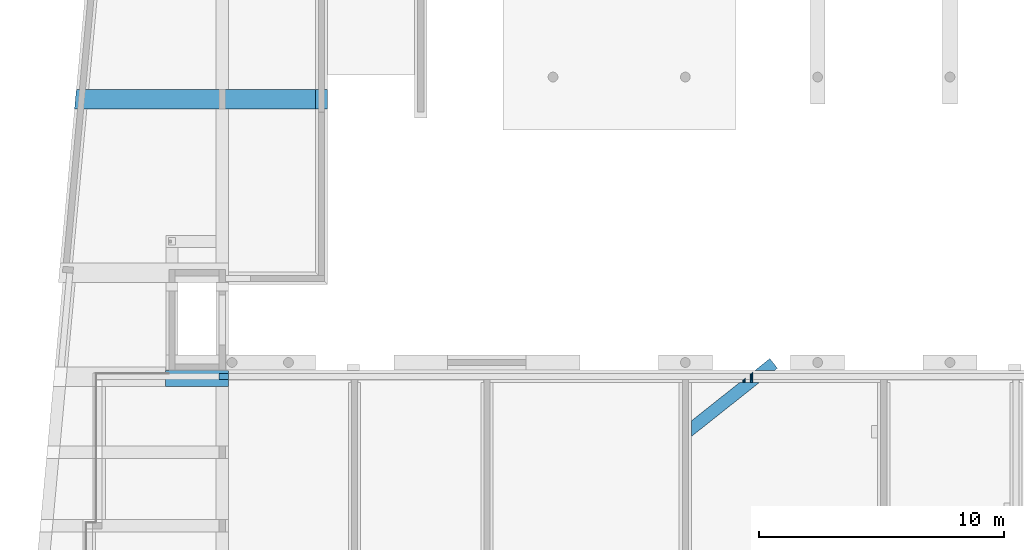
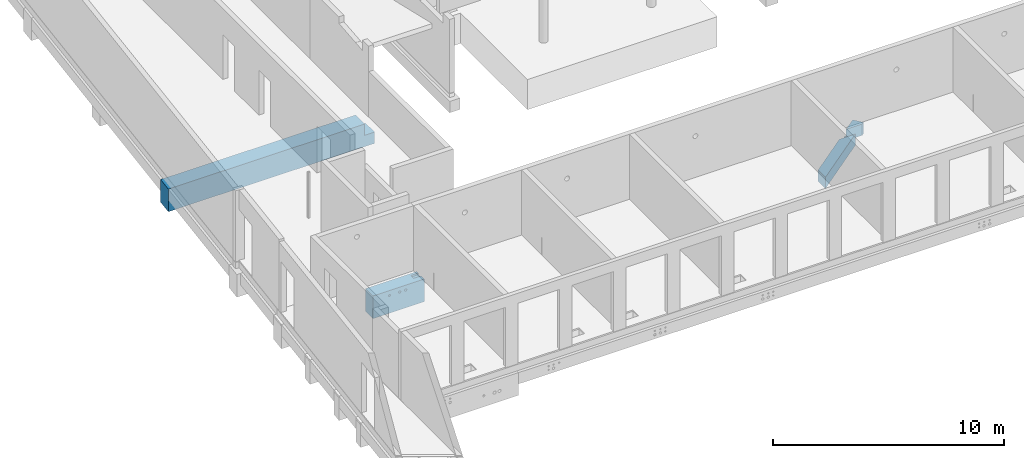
# One storey, part 54 of 60: 3 footings.
"""IFC2X3 building model written with IfcOpenShell, lengths in millimetres."""

from ifc_helpers import new_model, entity, si_unit, converted_unit, derived_unit, direction, frame, origin, place, context, subcontext, project, spatial, polyline, outline, extrude, faceted_brep, material, element, save


model = new_model("IFC2X3")

# Units and contexts
model_context = context("Model", 3, precision=0.01, world=origin(), true_north=direction((6.12303176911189e-17, 1.0)))
body_context = subcontext(model_context, "Body", "Model", "MODEL_VIEW")
ifc_project = project(units=[si_unit("LENGTHUNIT", "METRE", prefix="MILLI"), si_unit("AREAUNIT", "SQUARE_METRE"), si_unit("VOLUMEUNIT", "CUBIC_METRE"), converted_unit("PLANEANGLEUNIT", "DEGREE", entity("IfcRatioMeasure", 0.0174532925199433), si_unit("PLANEANGLEUNIT", "RADIAN"), dimensions=[0, 0, 0, 0, 0, 0, 0]), si_unit("MASSUNIT", "GRAM", prefix="KILO"), derived_unit("MASSDENSITYUNIT", [(si_unit("MASSUNIT", "GRAM", prefix="KILO"), 1), (si_unit("LENGTHUNIT", "METRE"), -3)]), si_unit("TIMEUNIT", "SECOND"), si_unit("FREQUENCYUNIT", "HERTZ"), si_unit("THERMODYNAMICTEMPERATUREUNIT", "DEGREE_CELSIUS"), derived_unit("THERMALTRANSMITTANCEUNIT", [(si_unit("MASSUNIT", "GRAM", prefix="KILO"), 1), (si_unit("THERMODYNAMICTEMPERATUREUNIT", "KELVIN"), -1), (si_unit("TIMEUNIT", "SECOND"), -3)]), derived_unit("VOLUMETRICFLOWRATEUNIT", [(si_unit("LENGTHUNIT", "METRE"), 3), (si_unit("TIMEUNIT", "SECOND"), -1)]), si_unit("ELECTRICCURRENTUNIT", "AMPERE"), si_unit("ELECTRICVOLTAGEUNIT", "VOLT"), si_unit("POWERUNIT", "WATT"), si_unit("FORCEUNIT", "NEWTON", prefix="KILO"), si_unit("ILLUMINANCEUNIT", "LUX"), si_unit("LUMINOUSFLUXUNIT", "LUMEN"), si_unit("LUMINOUSINTENSITYUNIT", "CANDELA"), derived_unit("USERDEFINED", [(si_unit("MASSUNIT", "GRAM", prefix="KILO"), -1), (si_unit("LENGTHUNIT", "METRE"), -2), (si_unit("TIMEUNIT", "SECOND"), 3), (si_unit("LUMINOUSFLUXUNIT", "LUMEN"), 1)]), derived_unit("LINEARVELOCITYUNIT", [(si_unit("LENGTHUNIT", "METRE"), 1), (si_unit("TIMEUNIT", "SECOND"), -1)]), si_unit("PRESSUREUNIT", "PASCAL"), derived_unit("USERDEFINED", [(si_unit("LENGTHUNIT", "METRE"), -2), (si_unit("MASSUNIT", "GRAM", prefix="KILO"), 1), (si_unit("TIMEUNIT", "SECOND"), -2)])], contexts=[model_context])

# Site, building, storey
site_placement = place(None, origin())
site = spatial("IfcSite", under=ifc_project, at=site_placement, Name="Default", CompositionType="ELEMENT")
building_placement = place(site_placement, origin())
building = spatial("IfcBuilding", under=site, at=building_placement, Name="niet gebruiken", CompositionType="ELEMENT")
storey_placement = place(building_placement, origin())
storey = spatial("IfcBuildingStorey", under=building, at=storey_placement, Name="00 begane grond", CompositionType="ELEMENT", Elevation=0.0)

# Footings
ifc_material = material(Name="NLRS_f2_beton ihwg")
footing_1_placement = place(storey_placement, frame((2071.61701217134, 19542.25, -1602.0)))
element("IfcFooting", 1, at=footing_1_placement, inside=storey, material=ifc_material, Name="NLRS_16.12_SF_WPB_funderingsbalk ihwg recht_gen:800x1200", ObjectType="NLRS_16.12_SF_WPB_funderingsbalk ihwg recht_gen:800x1200", PredefinedType="FOOTING_BEAM", context=body_context, shape_type="Brep", body=[
    faceted_brep([(10328.3829878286, 0.0, 0.0), (10328.3829878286, 800.0, 0.0), (10328.3829878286, 800.0, 600.0), (10328.3829878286, 0.0, 600.0), (74.4283302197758, 800.0, 0.0), (74.4283302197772, 800.0, 600.0), (74.4283302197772, 800.0, 1200.0), (576.58756493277, 800.0, 1200.0), (5778.38298782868, 800.0, 1200.0), (6278.38298782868, 800.0, 1200.0), (9828.38298782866, 800.0, 1200.0), (9828.38298782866, 800.0, 600.0), (0.0, 0.0, 0.0), (9828.38298782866, 0.0, 600.0), (9828.38298782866, 0.0, 1200.0), (6278.38298782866, 0.0, 1200.0), (5778.38298782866, 0.0, 1200.0), (502.159234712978, 0.0, 1200.0), (0.0, 0.0, 1200.0), (0.0, 0.0, 600.0)], [[[0, 1, 2, 3]], [[1, 4, 5, 6, 7, 8, 9, 10, 11, 2]], [[1, 0, 12, 4]], [[12, 0, 3, 13, 14, 15, 16, 17, 18, 19]], [[6, 18, 17, 16, 15, 14, 10, 9, 8, 7]], [[6, 5, 4, 12, 19, 18]], [[11, 13, 3, 2]], [[13, 11, 10, 14]]]),
])
footing_2_placement = place(storey_placement, frame((5780.0, 8221.0, -1692.0)))
element("IfcFooting", 2, at=footing_2_placement, inside=storey, material=ifc_material, Name="NLRS_16.12_SF_WPB_funderingsbalk ihwg recht_gen:650x1200", ObjectType="NLRS_16.12_SF_WPB_funderingsbalk ihwg recht_gen:650x1200", PredefinedType="FOOTING_BEAM", context=body_context, shape_type="Brep", body=[
    faceted_brep([(0.0, 650.0, 1200.0), (0.0, 650.0, 0.0), (0.0, 0.0, 0.0), (0.0, 0.0, 1200.0), (2570.0, 650.0, 0.0), (2570.0, 650.0, 1200.0), (2570.0, 525.0, 1200.0), (2570.0, 525.0, 1110.0), (2570.0, 275.0, 1110.0), (2570.0, 275.0, 1200.0), (2570.0, 0.0, 1200.0), (2570.0, 0.0, 0.0), (833.702473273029, 650.0, 997.0), (1333.70247327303, 650.0, 1004.5), (819.467425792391, 650.0, 995.125920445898), (1317.52628295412, 650.0, 1002.37036414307), (847.937520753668, 650.0, 995.125920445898), (806.202473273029, 650.0, 989.631397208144), (794.811600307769, 650.0, 980.89087296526), (786.071076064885, 650.0, 969.5), (780.57655282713, 650.0, 956.235047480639), (778.702473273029, 650.0, 942.0), (780.57655282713, 650.0, 927.764952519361), (786.071076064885, 650.0, 914.499999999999), (794.811600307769, 650.0, 903.109127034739), (806.202473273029, 650.0, 894.368602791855), (819.467425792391, 650.0, 888.874079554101), (833.702473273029, 650.0, 887.0), (847.937520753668, 650.0, 888.874079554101), (1317.52628295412, 650.0, 881.629635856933), (1302.45247327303, 650.0, 887.873412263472), (861.202473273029, 650.0, 894.368602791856), (1289.50829944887, 650.0, 897.80582617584), (872.593346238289, 650.0, 903.10912703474), (1279.5758855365, 650.0, 910.749999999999), (881.333870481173, 650.0, 914.5), (1273.33210912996, 650.0, 925.823809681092), (886.828393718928, 650.0, 927.764952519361), (1271.20247327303, 650.0, 942.0), (888.70247327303, 650.0, 942.0), (886.828393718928, 650.0, 956.235047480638), (1273.33210912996, 650.0, 958.176190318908), (881.333870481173, 650.0, 969.5), (1279.5758855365, 650.0, 973.25), (872.593346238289, 650.0, 980.89087296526), (1289.50829944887, 650.0, 986.194173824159), (861.202473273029, 650.0, 989.631397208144), (1302.45247327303, 650.0, 996.126587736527), (1333.70247327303, 650.0, 879.5), (1633.70247327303, 650.0, 879.5), (1349.87866359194, 650.0, 881.629635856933), (1617.52628295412, 650.0, 881.629635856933), (1602.45247327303, 650.0, 887.873412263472), (1364.95247327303, 650.0, 887.873412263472), (1377.89664709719, 650.0, 897.805826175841), (1589.50829944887, 650.0, 897.80582617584), (1387.82906100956, 650.0, 910.75), (1579.5758855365, 650.0, 910.749999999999), (1394.0728374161, 650.0, 925.823809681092), (1573.33210912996, 650.0, 925.823809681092), (1396.20247327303, 650.0, 942.0), (1571.20247327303, 650.0, 942.0), (1394.0728374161, 650.0, 958.176190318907), (1573.33210912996, 650.0, 958.176190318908), (1387.82906100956, 650.0, 973.25), (1579.5758855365, 650.0, 973.25), (1377.89664709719, 650.0, 986.194173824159), (1589.50829944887, 650.0, 986.194173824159), (1364.95247327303, 650.0, 996.126587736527), (1602.45247327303, 650.0, 996.126587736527), (1349.87866359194, 650.0, 1002.37036414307), (1617.52628295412, 650.0, 1002.37036414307), (1633.70247327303, 650.0, 1004.5), (1649.87866359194, 650.0, 881.629635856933), (1664.95247327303, 650.0, 887.873412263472), (1677.89664709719, 650.0, 897.805826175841), (1687.82906100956, 650.0, 910.75), (1694.0728374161, 650.0, 925.823809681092), (1696.20247327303, 650.0, 942.0), (1694.0728374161, 650.0, 958.176190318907), (1687.82906100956, 650.0, 973.25), (1677.89664709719, 650.0, 986.194173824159), (1664.95247327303, 650.0, 996.126587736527), (1649.87866359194, 650.0, 1002.37036414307), (847.937520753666, 0.0, 888.874079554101), (833.702473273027, 0.0, 887.0), (1317.52628295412, 0.0, 881.629635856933), (1302.45247327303, 0.0, 887.873412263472), (861.202473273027, 0.0, 894.368602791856), (819.467425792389, 0.0, 888.874079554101), (806.202473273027, 0.0, 894.368602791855), (794.811600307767, 0.0, 903.109127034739), (786.071076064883, 0.0, 914.499999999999), (780.576552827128, 0.0, 927.764952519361), (778.702473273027, 0.0, 942.0), (780.576552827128, 0.0, 956.235047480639), (786.071076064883, 0.0, 969.5), (794.811600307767, 0.0, 980.89087296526), (806.202473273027, 0.0, 989.631397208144), (819.467425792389, 0.0, 995.125920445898), (833.702473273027, 0.0, 997.0), (1333.70247327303, 0.0, 1004.5), (1317.52628295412, 0.0, 1002.37036414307), (847.937520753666, 0.0, 995.125920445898), (1302.45247327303, 0.0, 996.126587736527), (861.202473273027, 0.0, 989.631397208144), (1289.50829944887, 0.0, 986.194173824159), (872.593346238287, 0.0, 980.89087296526), (1279.5758855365, 0.0, 973.25), (881.333870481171, 0.0, 969.5), (1273.33210912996, 0.0, 958.176190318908), (886.828393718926, 0.0, 956.235047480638), (1271.20247327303, 0.0, 942.0), (888.702473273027, 0.0, 942.0), (886.828393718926, 0.0, 927.764952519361), (1273.33210912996, 0.0, 925.823809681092), (881.333870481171, 0.0, 914.5), (1279.5758855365, 0.0, 910.749999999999), (872.593346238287, 0.0, 903.10912703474), (1289.50829944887, 0.0, 897.80582617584), (1633.70247327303, 0.0, 1004.5), (1617.52628295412, 0.0, 1002.37036414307), (1349.87866359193, 0.0, 1002.37036414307), (1602.45247327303, 0.0, 996.126587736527), (1364.95247327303, 0.0, 996.126587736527), (1589.50829944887, 0.0, 986.194173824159), (1377.89664709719, 0.0, 986.194173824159), (1579.5758855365, 0.0, 973.25), (1387.82906100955, 0.0, 973.25), (1573.33210912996, 0.0, 958.176190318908), (1394.07283741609, 0.0, 958.176190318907), (1571.20247327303, 0.0, 942.0), (1396.20247327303, 0.0, 942.0), (1573.33210912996, 0.0, 925.823809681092), (1394.07283741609, 0.0, 925.823809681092), (1579.5758855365, 0.0, 910.749999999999), (1387.82906100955, 0.0, 910.75), (1589.50829944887, 0.0, 897.80582617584), (1377.89664709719, 0.0, 897.805826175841), (1602.45247327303, 0.0, 887.873412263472), (1364.95247327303, 0.0, 887.873412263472), (1349.87866359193, 0.0, 881.629635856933), (1617.52628295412, 0.0, 881.629635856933), (1633.70247327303, 0.0, 879.5), (1333.70247327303, 0.0, 879.5), (1649.87866359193, 0.0, 881.629635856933), (1649.87866359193, 0.0, 1002.37036414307), (1664.95247327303, 0.0, 996.126587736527), (1677.89664709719, 0.0, 986.194173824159), (1687.82906100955, 0.0, 973.25), (1694.07283741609, 0.0, 958.176190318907), (1696.20247327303, 0.0, 942.0), (1694.07283741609, 0.0, 925.823809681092), (1687.82906100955, 0.0, 910.75), (1677.89664709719, 0.0, 897.805826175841), (1664.95247327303, 0.0, 887.873412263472), (2195.0, 275.0, 1200.0), (2190.0, 275.0, 1200.0), (2190.0, 525.0, 1200.0), (2445.0, 275.0, 1200.0), (2190.0, 525.0, 1110.0), (2190.0, 275.0, 1110.0), (884.515847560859, 325.0, 920.95241121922), (779.706726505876, 289.552248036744, 931.537718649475), (888.702473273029, 258.951733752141, 942.0), (887.698220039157, 360.447751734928, 931.537718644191), (877.336906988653, 325.0, 908.518121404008), (854.750062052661, 325.0, 891.186625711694), (826.523532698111, 325.0, 887.470532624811), (812.654884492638, 325.0, 891.186625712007), (840.88141384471, 325.0, 887.470532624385), (867.184351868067, 325.0, 898.365566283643), (800.22059467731, 325.0, 898.365566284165), (888.702473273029, 391.048266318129, 942.0), (778.702473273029, 391.048266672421, 942.0), (790.068039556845, 325.0, 908.518121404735), (782.889098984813, 325.0, 920.952411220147), (778.702473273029, 258.951740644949, 942.0), (826.523532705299, 325.0, 996.529467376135), (812.654884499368, 325.0, 992.81337429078), (887.698220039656, 289.552248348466, 952.462281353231), (779.70672655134, 360.447760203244, 952.462281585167), (790.068039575, 324.999999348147, 975.481878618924), (840.881413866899, 325.0, 996.529467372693), (854.750062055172, 325.0, 992.813374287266), (800.220594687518, 325.0, 985.634433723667), (782.889099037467, 325.000001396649, 963.047588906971), (877.336906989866, 325.0, 975.481878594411), (867.184351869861, 325.0, 985.634433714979), (884.515847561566, 325.0, 963.047588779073), (1391.44494405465, 325.0, 918.082285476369), (1272.37727428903, 303.89543152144, 929.93890678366), (1396.20247327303, 276.043475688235, 942.0), (1396.20247327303, 373.956524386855, 942.0), (1395.02767225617, 346.104568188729, 929.938906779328), (1383.28705704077, 325.0, 903.952410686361), (1357.62018779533, 325.0, 884.25752921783), (1325.54458625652, 325.0, 880.0346961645), (1309.78475874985, 325.0, 884.257529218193), (1341.86036028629, 325.0, 880.034696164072), (1641.86036028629, 325.0, 880.034696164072), (1625.54458625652, 325.0, 880.0346961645), (1371.75006258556, 325.0, 892.415416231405), (1295.65488395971, 325.0, 892.41541623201), (1271.20247327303, 373.956524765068, 942.0), (1271.20247327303, 276.04348351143, 942.0), (1284.11788950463, 325.0, 903.952410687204), (1275.96000249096, 325.0, 918.082285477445), (1325.54458626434, 325.0, 1003.96530383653), (1309.78475875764, 325.0, 999.742470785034), (1395.02767225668, 303.895431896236, 954.06109321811), (1272.37727434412, 346.104576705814, 954.06109349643), (1284.11788952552, 324.999999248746, 980.047589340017), (1341.86036030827, 325.0, 1003.96530383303), (1357.62018779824, 325.0, 999.742470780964), (1625.54458626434, 325.0, 1003.96530383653), (1641.86036030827, 325.0, 1003.96530383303), (1295.6548839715, 325.0, 991.584583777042), (1275.96000255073, 325.000001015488, 965.917714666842), (1383.28705704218, 325.0, 980.047589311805), (1371.75006258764, 325.0, 991.584583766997), (1391.44494405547, 325.0, 965.91771452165), (1691.44494405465, 325.0, 918.082285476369), (1572.37727428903, 303.895431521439, 929.93890678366), (1696.20247327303, 276.043475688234, 942.0), (1696.20247327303, 373.956524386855, 942.0), (1695.02767225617, 346.104568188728, 929.938906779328), (1683.28705704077, 325.0, 903.952410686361), (1657.62018779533, 325.0, 884.25752921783), (1609.78475874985, 325.0, 884.257529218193), (1671.75006258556, 325.0, 892.415416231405), (1595.65488395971, 325.0, 892.41541623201), (1571.20247327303, 373.956524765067, 942.0), (1571.20247327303, 276.04348351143, 942.0), (1584.11788950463, 325.0, 903.952410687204), (1575.96000249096, 325.0, 918.082285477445), (1609.78475875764, 325.0, 999.742470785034), (1695.02767225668, 303.895431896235, 954.06109321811), (1572.37727434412, 346.104576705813, 954.06109349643), (1584.11788952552, 324.999999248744, 980.047589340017), (1657.62018779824, 325.0, 999.742470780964), (1595.6548839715, 325.0, 991.584583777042), (1575.96000255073, 325.000001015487, 965.917714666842), (1683.28705704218, 325.0, 980.047589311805), (1671.75006258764, 325.0, 991.584583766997), (1691.44494405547, 325.0, 965.91771452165)], [[[0, 1, 2, 3]], [[4, 5, 6, 7, 8, 9, 10, 11]], [[12, 0, 13]], [[14, 0, 12]], [[15, 12, 13]], [[16, 12, 15]], [[0, 14, 17]], [[17, 18, 0]], [[19, 0, 18]], [[0, 19, 20]], [[0, 20, 21]], [[21, 22, 0]], [[23, 0, 22]], [[23, 1, 0]], [[24, 1, 23]], [[1, 24, 25]], [[1, 25, 26]], [[26, 27, 1]], [[1, 27, 28]], [[29, 1, 28]], [[29, 28, 30]], [[28, 31, 30]], [[30, 31, 32]], [[31, 33, 32]], [[34, 32, 33]], [[33, 35, 34]], [[34, 35, 36]], [[37, 36, 35]], [[36, 37, 38]], [[37, 39, 38]], [[39, 40, 38]], [[40, 41, 38]], [[42, 41, 40]], [[41, 42, 43]], [[44, 43, 42]], [[45, 43, 44]], [[46, 45, 44]], [[47, 45, 46]], [[16, 47, 46]], [[16, 15, 47]], [[29, 48, 1]], [[48, 4, 1]], [[49, 4, 48]], [[49, 48, 50]], [[51, 49, 50]], [[51, 50, 52]], [[50, 53, 52]], [[54, 52, 53]], [[52, 54, 55]], [[56, 55, 54]], [[55, 56, 57]], [[56, 58, 57]], [[57, 58, 59]], [[58, 60, 59]], [[60, 61, 59]], [[60, 62, 61]], [[62, 63, 61]], [[63, 62, 64]], [[65, 63, 64]], [[64, 66, 65]], [[67, 65, 66]], [[66, 68, 67]], [[67, 68, 69]], [[70, 69, 68]], [[70, 13, 71]], [[69, 70, 71]], [[72, 71, 13]], [[73, 4, 49]], [[4, 73, 74]], [[75, 4, 74]], [[4, 75, 76]], [[5, 4, 76]], [[77, 5, 76]], [[77, 78, 5]], [[5, 78, 79]], [[5, 79, 80]], [[5, 80, 81]], [[81, 82, 5]], [[5, 82, 83]], [[83, 72, 5]], [[72, 13, 5]], [[0, 5, 13]], [[2, 1, 4, 11]], [[84, 85, 2]], [[86, 84, 2]], [[86, 87, 84]], [[88, 84, 87]], [[89, 2, 85]], [[2, 89, 90]], [[90, 91, 2]], [[92, 2, 91]], [[3, 2, 92]], [[92, 93, 3]], [[3, 93, 94]], [[3, 94, 95]], [[96, 3, 95]], [[3, 96, 97]], [[3, 97, 98]], [[98, 99, 3]], [[100, 3, 99]], [[101, 3, 100]], [[101, 100, 102]], [[100, 103, 102]], [[104, 102, 103]], [[105, 104, 103]], [[104, 105, 106]], [[105, 107, 106]], [[108, 106, 107]], [[107, 109, 108]], [[108, 109, 110]], [[111, 110, 109]], [[112, 110, 111]], [[111, 113, 112]], [[114, 112, 113]], [[112, 114, 115]], [[116, 115, 114]], [[116, 117, 115]], [[117, 116, 118]], [[88, 119, 118]], [[117, 118, 119]], [[119, 88, 87]], [[10, 3, 101]], [[101, 120, 10]], [[120, 101, 121]], [[121, 101, 122]], [[123, 121, 122]], [[122, 124, 123]], [[124, 125, 123]], [[125, 124, 126]], [[126, 127, 125]], [[126, 128, 127]], [[127, 128, 129]], [[128, 130, 129]], [[129, 130, 131]], [[132, 131, 130]], [[131, 132, 133]], [[134, 133, 132]], [[133, 134, 135]], [[134, 136, 135]], [[135, 136, 137]], [[138, 137, 136]], [[137, 138, 139]], [[140, 139, 138]], [[139, 140, 141]], [[142, 139, 141]], [[143, 142, 141]], [[141, 144, 143]], [[86, 2, 144]], [[11, 144, 2]], [[11, 143, 144]], [[145, 143, 11]], [[10, 120, 146]], [[147, 10, 146]], [[10, 147, 148]], [[149, 10, 148]], [[10, 149, 150]], [[10, 150, 151]], [[152, 10, 151]], [[152, 153, 10]], [[10, 153, 11]], [[11, 153, 154]], [[154, 155, 11]], [[11, 155, 145]], [[156, 157, 158, 6, 5, 0, 3, 10, 9, 159]], [[7, 6, 158, 160]], [[8, 7, 160, 161]], [[156, 159, 9, 8, 161, 157]], [[161, 160, 158, 157]], [[116, 114, 162]], [[93, 163, 94]], [[164, 165, 114]], [[116, 166, 118]], [[84, 88, 167]], [[89, 168, 169]], [[170, 27, 168]], [[171, 88, 118]], [[37, 165, 39]], [[85, 84, 170]], [[165, 162, 114]], [[172, 90, 169]], [[165, 164, 173, 39]], [[166, 116, 162]], [[35, 166, 162]], [[162, 37, 35]], [[31, 167, 171]], [[166, 35, 33]], [[31, 171, 33]], [[170, 84, 167]], [[167, 31, 28]], [[171, 118, 166]], [[170, 28, 27]], [[174, 163, 22]], [[90, 89, 169]], [[24, 175, 172]], [[176, 92, 175]], [[90, 172, 91]], [[93, 92, 176]], [[176, 163, 93]], [[25, 172, 169]], [[175, 92, 91]], [[23, 176, 175]], [[163, 174, 177, 94]], [[27, 26, 168]], [[169, 26, 25]], [[168, 85, 170]], [[33, 171, 166]], [[165, 37, 162]], [[172, 25, 24]], [[26, 169, 168]], [[175, 24, 23]], [[22, 176, 23]], [[114, 113, 164]], [[163, 176, 22]], [[28, 170, 167]], [[175, 91, 172]], [[89, 85, 168]], [[21, 174, 22]], [[167, 88, 171]], [[178, 99, 179]], [[111, 180, 113]], [[177, 181, 95]], [[96, 182, 97]], [[99, 98, 179]], [[103, 183, 184]], [[178, 12, 183]], [[185, 98, 97]], [[20, 181, 21]], [[100, 99, 178]], [[181, 186, 95]], [[96, 186, 182]], [[95, 186, 96]], [[185, 97, 182]], [[19, 182, 186]], [[186, 181, 20]], [[18, 185, 182]], [[182, 19, 18]], [[17, 185, 18]], [[179, 98, 185]], [[179, 17, 14]], [[17, 179, 185]], [[178, 14, 12]], [[173, 180, 40]], [[105, 103, 184]], [[44, 187, 188]], [[189, 109, 187]], [[105, 188, 107]], [[111, 109, 189]], [[189, 180, 111]], [[46, 188, 184]], [[187, 109, 107]], [[42, 189, 187]], [[180, 173, 164, 113]], [[12, 16, 183]], [[184, 16, 46]], [[94, 177, 95]], [[14, 178, 179]], [[186, 20, 19]], [[188, 46, 44]], [[16, 184, 183]], [[187, 44, 42]], [[40, 189, 42]], [[188, 105, 184]], [[180, 189, 40]], [[181, 177, 174, 21]], [[187, 107, 188]], [[103, 100, 183]], [[39, 173, 40]], [[183, 100, 178]], [[136, 134, 190]], [[115, 191, 112]], [[132, 192, 193, 60, 194]], [[136, 195, 138]], [[141, 140, 196]], [[86, 197, 198]], [[199, 48, 197]], [[200, 49, 201]], [[202, 140, 138]], [[58, 194, 60]], [[144, 141, 199]], [[194, 190, 134]], [[203, 87, 198]], [[195, 136, 190]], [[56, 195, 190]], [[190, 58, 56]], [[53, 196, 202]], [[195, 56, 54]], [[53, 202, 54]], [[199, 141, 196]], [[196, 53, 50]], [[202, 138, 195]], [[199, 50, 48]], [[38, 204, 205, 112, 191]], [[87, 86, 198]], [[32, 206, 203]], [[207, 117, 206]], [[87, 203, 119]], [[115, 117, 207]], [[207, 191, 115]], [[30, 203, 198]], [[206, 117, 119]], [[34, 207, 206]], [[48, 29, 197]], [[198, 29, 30]], [[197, 144, 199]], [[201, 143, 200]], [[54, 202, 195]], [[194, 58, 190]], [[203, 30, 32]], [[29, 198, 197]], [[206, 32, 34]], [[36, 207, 34]], [[194, 134, 132]], [[191, 207, 36]], [[50, 199, 196]], [[206, 119, 203]], [[86, 144, 197]], [[36, 38, 191]], [[196, 140, 202]], [[208, 102, 209]], [[130, 210, 132]], [[112, 205, 204, 38, 211]], [[108, 212, 106]], [[102, 104, 209]], [[122, 213, 214]], [[208, 13, 213]], [[215, 72, 216]], [[217, 104, 106]], [[41, 211, 38]], [[101, 102, 208]], [[211, 218, 110]], [[108, 218, 212]], [[110, 218, 108]], [[217, 106, 212]], [[43, 212, 218]], [[218, 211, 41]], [[45, 217, 212]], [[212, 43, 45]], [[47, 217, 45]], [[209, 104, 217]], [[209, 47, 15]], [[47, 209, 217]], [[208, 15, 13]], [[60, 193, 192, 132, 210]], [[124, 122, 214]], [[66, 219, 220]], [[221, 128, 219]], [[124, 220, 126]], [[130, 128, 221]], [[221, 210, 130]], [[68, 220, 214]], [[219, 128, 126]], [[64, 221, 219]], [[13, 70, 213]], [[214, 70, 68]], [[110, 112, 211]], [[15, 208, 209]], [[218, 41, 43]], [[220, 68, 66]], [[70, 214, 213]], [[219, 66, 64]], [[62, 221, 64]], [[220, 124, 214]], [[210, 221, 62]], [[219, 126, 220]], [[122, 101, 213]], [[62, 60, 210]], [[213, 101, 208]], [[216, 120, 215]], [[153, 152, 222]], [[133, 223, 131]], [[151, 224, 225, 78, 226]], [[153, 227, 154]], [[145, 155, 228]], [[142, 201, 229]], [[230, 155, 154]], [[77, 226, 78]], [[143, 145, 200]], [[226, 222, 152]], [[231, 139, 229]], [[227, 153, 222]], [[76, 227, 222]], [[222, 77, 76]], [[74, 228, 230]], [[227, 76, 75]], [[74, 230, 75]], [[200, 145, 228]], [[228, 74, 73]], [[230, 154, 227]], [[200, 73, 49]], [[61, 232, 233, 131, 223]], [[139, 142, 229]], [[55, 234, 231]], [[235, 135, 234]], [[139, 231, 137]], [[133, 135, 235]], [[235, 223, 133]], [[52, 231, 229]], [[234, 135, 137]], [[57, 235, 234]], [[49, 51, 201]], [[229, 51, 52]], [[75, 230, 227]], [[226, 77, 222]], [[231, 52, 55]], [[51, 229, 201]], [[234, 55, 57]], [[59, 235, 57]], [[226, 152, 151]], [[223, 235, 59]], [[73, 200, 228]], [[234, 137, 231]], [[142, 143, 201]], [[59, 61, 223]], [[228, 155, 230]], [[215, 121, 236]], [[150, 237, 151]], [[131, 233, 232, 61, 238]], [[127, 239, 125]], [[121, 123, 236]], [[146, 216, 240]], [[241, 123, 125]], [[63, 238, 61]], [[120, 121, 215]], [[238, 242, 129]], [[127, 242, 239]], [[129, 242, 127]], [[241, 125, 239]], [[65, 239, 242]], [[242, 238, 63]], [[67, 241, 239]], [[239, 65, 67]], [[69, 241, 67]], [[236, 123, 241]], [[236, 69, 71]], [[69, 236, 241]], [[215, 71, 72]], [[78, 225, 224, 151, 237]], [[147, 146, 240]], [[81, 243, 244]], [[245, 149, 243]], [[147, 244, 148]], [[150, 149, 245]], [[245, 237, 150]], [[82, 244, 240]], [[243, 149, 148]], [[80, 245, 243]], [[72, 83, 216]], [[240, 83, 82]], [[129, 131, 238]], [[71, 215, 236]], [[242, 63, 65]], [[244, 82, 81]], [[83, 240, 216]], [[243, 81, 80]], [[79, 245, 80]], [[244, 147, 240]], [[237, 245, 79]], [[243, 148, 244]], [[146, 120, 216]], [[79, 78, 237]]]),
])
footing_3_placement = place(storey_placement, origin())
element("IfcFooting", 3, at=footing_3_placement, inside=storey, material=ifc_material, Name="NLRS_16.12_SF_WPB_funderingsbalk ihwg recht_gen:500x600", ObjectType="NLRS_16.12_SF_WPB_funderingsbalk ihwg recht_gen:500x600", PredefinedType="FOOTING_BEAM", context=body_context, shape_type="SolidModel", body=[
    extrude(outline(polyline([(-231.309939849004, -250.0), (546.375351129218, -250.0), (-83.7554714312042, 250.0), (-231.309939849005, 250.0), (-231.309939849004, -250.0)])), frame((30421.3297357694, 9014.77732343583, -1092.0), z_axis=(0.0, 0.0, 1.0), x_axis=(-0.783351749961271, -0.62157866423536, 0.0)), (0.0, 0.0, 1.0), 599.999999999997),
    faceted_brep([(27250.0, 6817.51293857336, -1092.0), (27250.0, 6817.51293857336, -492.0), (29207.8001597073, 8371.0, -492.0), (29207.8001597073, 8371.0, -1092.0), (29343.6894457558, 8478.82624907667, -827.117733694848), (29339.0670054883, 8475.15840733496, -813.907558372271), (29337.4999999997, 8473.91501038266, -800.0), (29339.0670054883, 8475.15840733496, -786.09244162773), (29343.6894457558, 8478.82624907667, -772.882266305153), (29351.1355323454, 8484.73461470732, -761.03188738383), (29361.0318873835, 8492.58723410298, -751.135532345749), (29372.8822663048, 8501.99034413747, -743.689445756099), (29386.0924416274, 8512.4724336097, -739.067005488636), (29400.0, 8523.50788678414, -737.5), (29413.9075583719, 8534.54333995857, -739.067005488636), (29427.1177336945, 8545.02542943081, -743.689445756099), (29438.9681126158, 8554.4285394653, -751.135532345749), (29448.8644676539, 8562.28115886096, -761.03188738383), (29456.3105542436, 8568.1895244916, -772.882266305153), (29460.932994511, 8571.85736623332, -786.09244162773), (29462.4999999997, 8573.10076318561, -800.0), (29460.932994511, 8571.85736623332, -813.907558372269), (29456.3105542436, 8568.1895244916, -827.117733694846), (29448.8644676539, 8562.28115886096, -838.96811261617), (29438.9681126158, 8554.4285394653, -848.864467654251), (29427.1177336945, 8545.02542943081, -856.310554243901), (29413.9075583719, 8534.54333995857, -860.932994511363), (29400.0, 8523.50788678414, -862.5), (29386.0924416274, 8512.4724336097, -860.932994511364), (29372.8822663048, 8501.99034413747, -856.310554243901), (29361.0318873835, 8492.58723410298, -848.864467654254), (29351.1355323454, 8484.73461470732, -838.968112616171), (29643.6894457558, 8716.87205580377, -827.117733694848), (29639.0670054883, 8713.20421406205, -813.907558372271), (29637.4999999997, 8711.96081710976, -800.0), (29639.0670054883, 8713.20421406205, -786.09244162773), (29643.6894457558, 8716.87205580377, -772.882266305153), (29651.1355323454, 8722.78042143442, -761.03188738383), (29661.0318873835, 8730.63304083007, -751.135532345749), (29672.8822663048, 8740.03615086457, -743.689445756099), (29686.0924416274, 8750.5182403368, -739.067005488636), (29700.0, 8761.55369351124, -737.5), (29713.9075583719, 8772.58914668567, -739.067005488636), (29727.1177336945, 8783.0712361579, -743.689445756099), (29738.9681126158, 8792.4743461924, -751.135532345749), (29748.8644676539, 8800.32696558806, -761.03188738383), (29756.3105542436, 8806.2353312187, -772.882266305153), (29760.932994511, 8809.90317296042, -786.09244162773), (29762.4999999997, 8811.14656991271, -800.0), (29760.932994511, 8809.90317296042, -813.907558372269), (29756.3105542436, 8806.2353312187, -827.117733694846), (29748.8644676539, 8800.32696558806, -838.96811261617), (29738.9681126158, 8792.4743461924, -848.864467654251), (29727.1177336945, 8783.0712361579, -856.310554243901), (29713.9075583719, 8772.58914668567, -860.932994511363), (29700.0, 8761.55369351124, -862.5), (29686.0924416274, 8750.5182403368, -860.932994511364), (29672.8822663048, 8740.03615086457, -856.310554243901), (29661.0318873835, 8730.63304083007, -848.864467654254), (29651.1355323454, 8722.78042143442, -838.968112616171), (27250.0, 6179.23007263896, -1092.0), (30012.2035743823, 8371.0, -1092.0), (27250.0, 6179.23007263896, -492.0), (30012.2035743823, 8371.0, -492.0), (29355.8058261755, 8371.0, -844.19417382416), (29368.7499999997, 8371.0, -854.126587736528), (29345.8734122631, 8371.0, -831.25), (29383.8238096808, 8371.0, -860.370364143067), (29400.0, 8371.0, -862.5), (29416.1761903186, 8371.0, -860.370364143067), (29683.8238096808, 8371.0, -860.370364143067), (29431.2499999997, 8371.0, -854.126587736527), (29668.7499999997, 8371.0, -854.126587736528), (29444.1941738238, 8371.0, -844.194173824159), (29655.8058261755, 8371.0, -844.19417382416), (29454.1265877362, 8371.0, -831.25), (29645.8734122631, 8371.0, -831.25), (29460.3703641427, 8371.0, -816.176190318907), (29639.6296358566, 8371.0, -816.176190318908), (29637.4999999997, 8371.0, -800.0), (29462.4999999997, 8371.0, -800.0), (29460.3703641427, 8371.0, -783.823809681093), (29639.6296358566, 8371.0, -783.823809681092), (29454.1265877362, 8371.0, -768.75), (29645.8734122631, 8371.0, -768.75), (29655.8058261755, 8371.0, -755.805826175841), (29444.1941738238, 8371.0, -755.805826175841), (29668.7499999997, 8371.0, -745.873412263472), (29431.2499999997, 8371.0, -745.873412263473), (29683.8238096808, 8371.0, -739.629635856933), (29416.1761903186, 8371.0, -739.629635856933), (29400.0, 8371.0, -737.5), (29383.8238096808, 8371.0, -739.629635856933), (29368.7499999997, 8371.0, -745.873412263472), (29355.8058261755, 8371.0, -755.805826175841), (29345.8734122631, 8371.0, -768.75), (29339.6296358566, 8371.0, -783.823809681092), (29337.4999999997, 8371.0, -800.0), (29339.6296358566, 8371.0, -816.176190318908), (29762.4999999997, 8371.0, -800.0), (29700.0, 8371.0, -737.5), (29716.1761903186, 8371.0, -739.629635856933), (29731.2499999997, 8371.0, -745.873412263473), (29744.1941738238, 8371.0, -755.805826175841), (29754.1265877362, 8371.0, -768.75), (29760.3703641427, 8371.0, -783.823809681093), (29700.0, 8371.0, -862.5), (29716.1761903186, 8371.0, -860.370364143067), (29731.2499999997, 8371.0, -854.126587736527), (29744.1941738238, 8371.0, -844.194173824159), (29754.1265877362, 8371.0, -831.25), (29760.3703641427, 8371.0, -816.176190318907)], [[[0, 1, 2, 3]], [[4, 5, 6, 7, 8, 9, 10, 11, 12, 13, 14, 15, 16, 17, 18, 19, 20, 21, 22, 23, 24, 25, 26, 27, 28, 29, 30, 31]], [[32, 33, 34, 35, 36, 37, 38, 39, 40, 41, 42, 43, 44, 45, 46, 47, 48, 49, 50, 51, 52, 53, 54, 55, 56, 57, 58, 59]], [[60, 0, 3, 61]], [[62, 60, 61, 63]], [[1, 62, 63, 2]], [[62, 1, 0, 60]], [[64, 65, 3]], [[66, 64, 3]], [[67, 3, 65]], [[3, 67, 68]], [[3, 68, 69]], [[3, 69, 70]], [[70, 69, 71]], [[70, 71, 72]], [[71, 73, 72]], [[73, 74, 72]], [[75, 74, 73]], [[75, 76, 74]], [[76, 75, 77]], [[77, 78, 76]], [[77, 79, 78]], [[80, 79, 77]], [[79, 80, 81]], [[81, 82, 79]], [[82, 81, 83]], [[83, 84, 82]], [[83, 85, 84]], [[86, 85, 83]], [[86, 87, 85]], [[86, 88, 87]], [[87, 88, 89]], [[88, 90, 89]], [[89, 90, 2]], [[2, 90, 91]], [[91, 92, 2]], [[92, 93, 2]], [[94, 2, 93]], [[2, 94, 95]], [[2, 95, 96]], [[97, 2, 96]], [[3, 97, 98]], [[2, 97, 3]], [[3, 98, 66]], [[70, 61, 3]], [[2, 63, 89]], [[99, 63, 61]], [[89, 63, 100]], [[63, 101, 100]], [[101, 63, 102]], [[103, 102, 63]], [[63, 104, 103]], [[63, 105, 104]], [[63, 99, 105]], [[61, 70, 106]], [[106, 107, 61]], [[108, 61, 107]], [[109, 61, 108]], [[61, 109, 110]], [[111, 61, 110]], [[61, 111, 99]], [[21, 80, 77]], [[75, 22, 77]], [[71, 69, 25]], [[24, 73, 71]], [[23, 75, 73]], [[26, 69, 68]], [[80, 21, 20]], [[77, 22, 21]], [[73, 24, 23]], [[75, 23, 22]], [[71, 25, 24]], [[69, 26, 25]], [[68, 27, 26]], [[65, 29, 67]], [[64, 30, 65]], [[5, 98, 97]], [[64, 66, 31]], [[98, 4, 66]], [[6, 5, 97]], [[27, 68, 28]], [[29, 28, 67]], [[5, 4, 98]], [[31, 30, 64]], [[4, 31, 66]], [[29, 65, 30]], [[28, 68, 67]], [[8, 96, 95]], [[97, 96, 7]], [[93, 92, 11]], [[10, 94, 93]], [[95, 94, 9]], [[91, 12, 92]], [[7, 6, 97]], [[8, 7, 96]], [[10, 9, 94]], [[12, 11, 92]], [[10, 93, 11]], [[8, 95, 9]], [[91, 13, 12]], [[13, 91, 14]], [[14, 91, 90]], [[88, 15, 90]], [[83, 81, 18]], [[17, 86, 83]], [[16, 88, 86]], [[19, 81, 80]], [[88, 16, 15]], [[15, 14, 90]], [[17, 83, 18]], [[19, 18, 81]], [[16, 86, 17]], [[20, 19, 80]], [[49, 99, 111]], [[110, 50, 111]], [[108, 107, 53]], [[52, 109, 108]], [[51, 110, 109]], [[54, 107, 106]], [[99, 49, 48]], [[111, 50, 49]], [[109, 52, 51]], [[110, 51, 50]], [[108, 53, 52]], [[107, 54, 53]], [[106, 55, 54]], [[72, 57, 70]], [[74, 58, 72]], [[33, 78, 79]], [[74, 76, 59]], [[78, 32, 76]], [[34, 33, 79]], [[55, 106, 56]], [[57, 56, 70]], [[33, 32, 78]], [[59, 58, 74]], [[32, 59, 76]], [[57, 72, 58]], [[56, 106, 70]], [[36, 82, 84]], [[79, 82, 35]], [[87, 89, 39]], [[38, 85, 87]], [[37, 84, 85]], [[40, 89, 100]], [[35, 34, 79]], [[36, 35, 82]], [[38, 37, 85]], [[40, 39, 89]], [[38, 87, 39]], [[36, 84, 37]], [[100, 41, 40]], [[41, 100, 42]], [[42, 100, 101]], [[102, 43, 101]], [[104, 105, 46]], [[45, 103, 104]], [[44, 102, 103]], [[47, 105, 99]], [[102, 44, 43]], [[43, 42, 101]], [[45, 104, 46]], [[47, 46, 105]], [[44, 103, 45]], [[48, 47, 99]]]),
])

save(model, "model.ifc")
